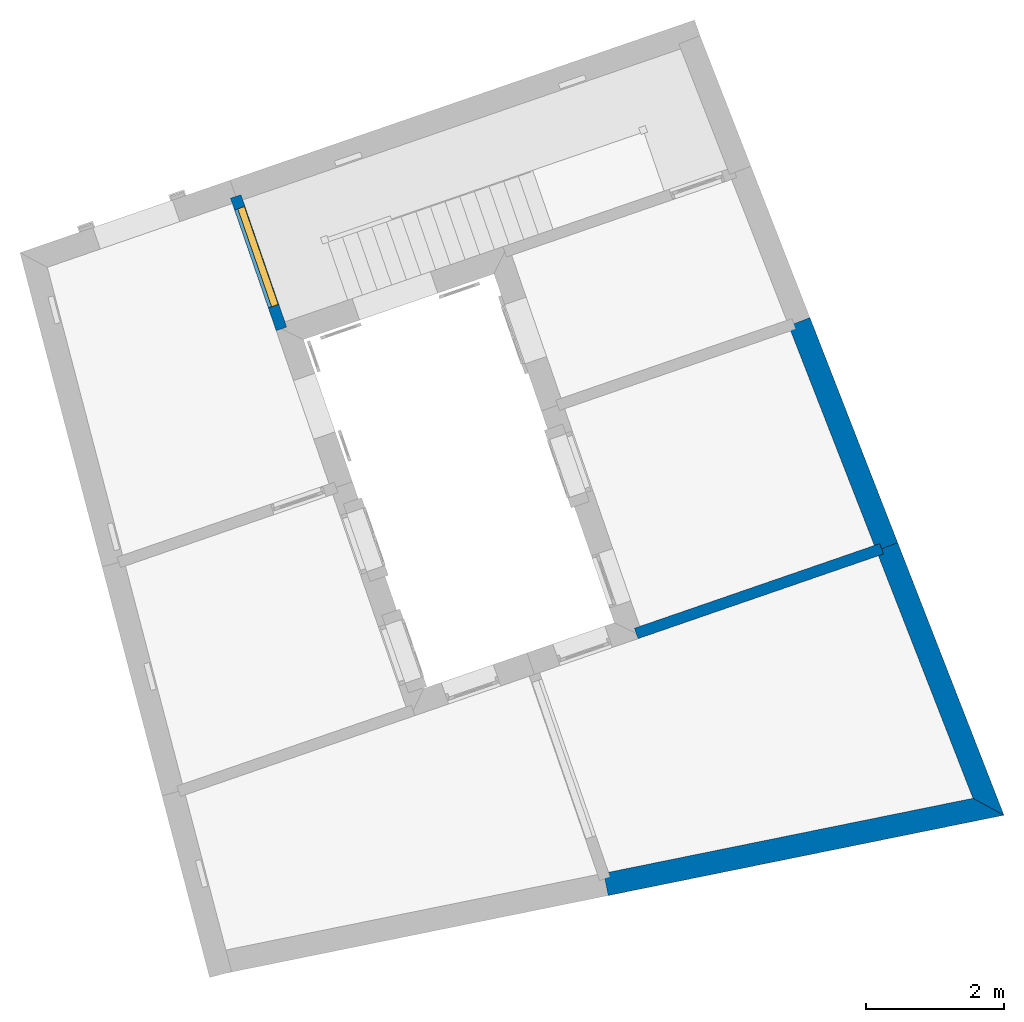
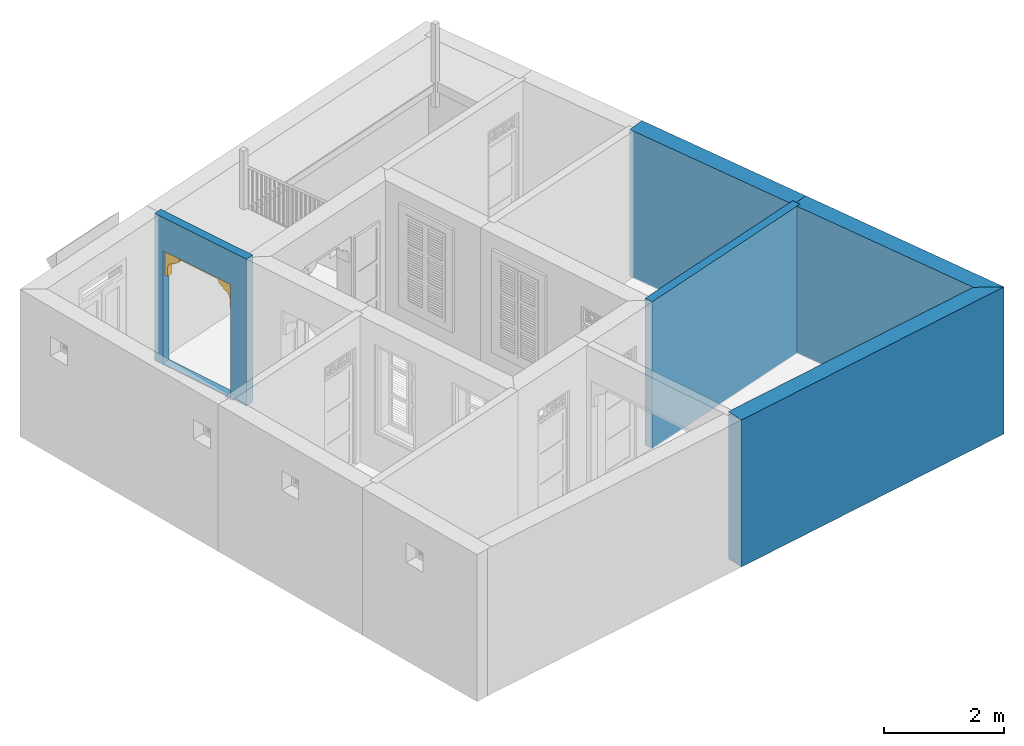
# One storey, part 10 of 16: 5 walls, 1 door, 1 opening.
"""IFC4 building model written with IfcOpenShell, lengths in metres."""

from ifc_helpers import new_model, si_unit, frame, origin, origin_with_axes, place, context, subcontext, project, spatial, polyline, outline, extrude, faceted_brep, source, transform, mapped, material, layer, layer_set, layer_usage, type_object, type_shapes, element, fill, save


model = new_model("IFC4")

# Units and contexts
model_context = context("Model", 3, world=origin_with_axes())
body_context = subcontext(model_context, "Body", "Model", "MODEL_VIEW")
ifc_project = project(units=[si_unit("PLANEANGLEUNIT", "RADIAN"), si_unit("MASSUNIT", "GRAM", prefix="KILO"), si_unit("FORCEUNIT", "NEWTON", prefix="KILO"), si_unit("LENGTHUNIT", "METRE"), si_unit("AREAUNIT", "SQUARE_METRE"), si_unit("VOLUMEUNIT", "CUBIC_METRE")], contexts=[model_context, model_context])

# Site, building, storey
site_placement = place(None, origin_with_axes())
site = spatial("IfcSite", under=ifc_project, at=site_placement, Name="Site plot-8", CompositionType="ELEMENT")
building_placement = place(None, origin_with_axes())
building = spatial("IfcBuilding", under=site, at=building_placement, Name="Building plot-8", CompositionType="ELEMENT")
storey_placement = place(None, origin_with_axes())
storey = spatial("IfcBuildingStorey", under=building, at=storey_placement, Name="plot-8 0", CompositionType="ELEMENT", Elevation=0.0)

# Walls
ifc_material_1 = material(Name="Masonry")
ifc_layer_1 = layer(ifc_material_1, 0.33, ventilated=False)
ifc_layer_set_1 = layer_set([ifc_layer_1], Name="party_0.08_0.25")
ifc_layer_usage_1 = layer_usage(ifc_layer_set_1, "AXIS2", "POSITIVE", -0.25)
wall_type_1 = type_object("IfcWallType", Name="party_0.08_0.25", PredefinedType="SOLIDWALL", material=ifc_layer_set_1)
wall_1_placement = place(storey_placement, frame((-6.90926111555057, 12.5892691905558, 0.0), z_axis=(0.0, 0.0, 1.0), x_axis=(0.979990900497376, 0.199042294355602, 0.0)))
element("IfcWall", 1, at=wall_1_placement, inside=storey, type_object=wall_type_1, material=ifc_layer_usage_1, Name="party", context=body_context, shape_type="SweptSolid", body=[
    extrude(outline(polyline([(-1.78922182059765e-15, 0.0799999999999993), (4.06762212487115e-15, -0.249999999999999), (5.8566875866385, -0.250000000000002), (5.46463031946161, 0.0800000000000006), (-1.78922182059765e-15, 0.0799999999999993)])), origin_with_axes(), (0.0, 0.0, 1.0), 3.0),
])
wall_2_placement = place(storey_placement, frame((-1.46083069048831, 13.6958795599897, 0.0), z_axis=(0.0, 0.0, 1.0), x_axis=(-0.363339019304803, 0.931656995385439, 0.0)))
element("IfcWall", 2, at=wall_2_placement, inside=storey, type_object=wall_type_1, material=ifc_layer_usage_1, Name="party", context=body_context, shape_type="SweptSolid", body=[
    extrude(outline(polyline([(0.0950441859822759, 0.08), (-0.297013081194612, -0.25), (3.94809642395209, -0.25), (3.94809642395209, 0.0799999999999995), (0.0950441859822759, 0.08)])), origin_with_axes(), (0.0, 0.0, 1.0), 3.0),
])
wall_3_placement = place(storey_placement, frame((-2.89532817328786, 17.3741512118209, 0.0), z_axis=(0.0, 0.0, 1.0), x_axis=(-0.363339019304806, 0.931656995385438, 0.0)))
element("IfcWall", 3, at=wall_3_placement, inside=storey, type_object=wall_type_1, material=ifc_layer_usage_1, Name="party", context=body_context, shape_type="SweptSolid", body=[
    extrude(outline(polyline([(1.42598405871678e-15, 0.0799999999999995), (-8.17359183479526e-16, -0.25), (3.50258178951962, -0.25), (3.50258178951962, 0.0799999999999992), (1.42598405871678e-15, 0.0799999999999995)])), origin_with_axes(), (0.0, 0.0, 1.0), 3.0),
])
ifc_material_2 = material(Name="Masonry")
ifc_layer_2 = layer(ifc_material_2, 0.16, ventilated=False)
ifc_layer_set_2 = layer_set([ifc_layer_2], Name="interior_0.08_0.08")
ifc_layer_usage_2 = layer_usage(ifc_layer_set_2, "AXIS2", "POSITIVE", -0.08)
wall_type_2 = type_object("IfcWallType", Name="interior_0.08_0.08", PredefinedType="SOLIDWALL", material=ifc_layer_set_2)
wall_4_placement = place(storey_placement, frame((-2.89532817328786, 17.3741512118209, 0.0), z_axis=(0.0, 0.0, 1.0), x_axis=(-0.945331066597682, -0.326112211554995, 0.0)))
element("IfcWall", 4, at=wall_4_placement, inside=storey, type_object=wall_type_2, material=ifc_layer_usage_2, Name="interior", context=body_context, shape_type="SweptSolid", body=[
    extrude(outline(polyline([(-5.12075676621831e-16, 0.0799999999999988), (5.02278502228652e-16, -0.0799999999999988), (3.7639579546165, -0.0799999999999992), (3.7639579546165, 0.0799999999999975), (-5.12075676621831e-16, 0.0799999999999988)])), origin_with_axes(), (0.0, 0.0, 1.0), 3.0),
])

# Wall, opening, door
wall_5_placement = place(storey_placement, frame((-11.6006556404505, 20.5643458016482, 0.0), z_axis=(0.0, 0.0, 1.0), x_axis=(-0.326112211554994, 0.945331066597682, 0.0)))
wall_5 = element("IfcWall", 5, at=wall_5_placement, inside=storey, type_object=wall_type_2, material=ifc_layer_usage_2, Name="interior", context=body_context, shape_type="SweptSolid", body=[
    extrude(outline(polyline([(8.22022733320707e-16, 0.0800000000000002), (-8.12225558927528e-16, -0.0800000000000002), (2.03106767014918, -0.0800000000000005), (2.03106767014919, 0.0800000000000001), (8.22022733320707e-16, 0.0800000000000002)])), origin_with_axes(), (0.0, 0.0, 1.0), 3.0),
])
opening_placement = place(wall_5_placement, frame((0.351067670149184, 0.0, 0.02)))
opening = element("IfcOpeningElement", 6, at=opening_placement, cuts=wall_5, Name="My Opening", ObjectType="Opening", context=body_context, shape_type="SweptSolid", body=[
    extrude(outline(polyline([(0.0, -0.0999999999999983), (1.5, -0.1), (1.5, 1.1), (2.44249065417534e-15, 1.1), (0.0, -0.0999999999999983)])), origin_with_axes(), (0.0, 0.0, 1.0), 2.3),
])
door_type = type_object("IfcDoorType", Name="arch-1500x2300-thin", OperationType="SINGLE_SWING_LEFT", PredefinedType="NOTDEFINED")
shared_shape = source(origin(), body_context, "Body", "Brep", [
    faceted_brep([(1.5, 0.03, 1.78), (1.5, 0.03, 1.95), (1.44, 0.03, 1.95), (1.44, 0.03, 1.78), (1.44, 0.13, 1.95), (1.44, 0.13, 1.78), (1.5, 0.03, 2.12), (1.429, 0.03, 2.004), (1.5, 0.13, 1.78), (1.5, 0.13, 1.95), (1.429, 0.13, 2.004), (1.399, 0.03, 2.049), (1.5, 0.13, 2.12), (1.399, 0.13, 2.049), (1.354, 0.03, 2.079), (1.5, 0.13, 2.29), (1.5, 0.03, 2.29), (1.354, 0.13, 2.079), (1.3, 0.03, 2.09), (1.3, 0.03, 2.12), (1.254, 0.03, 2.129), (1.18, 0.13, 2.29), (1.18, 0.03, 2.29), (1.3, 0.13, 2.12), (1.254, 0.13, 2.129), (1.3, 0.13, 2.09), (1.215, 0.03, 2.155), (1.189, 0.13, 2.194), (1.18, 0.13, 2.24), (1.18, 0.03, 2.24), (1.189, 0.03, 2.194), (1.215, 0.13, 2.155), (0.06, 0.03, 1.78), (0.06, 0.03, 1.95), (0.0, 0.03, 1.95), (0.0, 0.03, 1.78), (0.06, 0.13, 1.78), (0.06, 0.13, 1.95), (0.071, 0.03, 2.004), (0.0, 0.03, 2.12), (0.0, 0.13, 1.95), (0.0, 0.13, 1.78), (0.071, 0.13, 2.004), (0.101, 0.03, 2.049), (0.0, 0.13, 2.12), (0.101, 0.13, 2.049), (0.146, 0.03, 2.079), (0.0, 0.03, 2.29), (0.0, 0.13, 2.29), (0.146, 0.13, 2.079), (0.2, 0.03, 2.12), (0.2, 0.03, 2.09), (0.246, 0.03, 2.129), (0.32, 0.03, 2.29), (0.32, 0.13, 2.29), (0.246, 0.13, 2.129), (0.2, 0.13, 2.12), (0.2, 0.13, 2.09), (0.285, 0.03, 2.155), (0.32, 0.13, 2.24), (0.311, 0.13, 2.194), (0.311, 0.03, 2.194), (0.32, 0.03, 2.24), (0.285, 0.13, 2.155)], [[[0, 1, 2, 3]], [[4, 5, 3, 2]], [[1, 6, 7, 2]], [[1, 0, 8, 9]], [[5, 8, 0, 3]], [[5, 4, 9, 8]], [[10, 4, 2, 7]], [[6, 11, 7]], [[6, 1, 9, 12]], [[4, 10, 12, 9]], [[13, 10, 7, 11]], [[6, 14, 11]], [[12, 15, 16, 6]], [[12, 10, 13]], [[17, 13, 11, 14]], [[18, 14, 6, 19]], [[6, 16, 20, 19]], [[16, 15, 21, 22]], [[23, 24, 15, 12]], [[12, 13, 17]], [[25, 17, 14, 18]], [[23, 25, 18, 19]], [[24, 23, 19, 20]], [[16, 26, 20]], [[15, 27, 28, 21]], [[16, 22, 29, 30]], [[31, 15, 24]], [[23, 12, 17, 25]], [[31, 24, 20, 26]], [[16, 30, 26]], [[28, 27, 30, 29]], [[27, 15, 31]], [[27, 31, 26, 30]], [[32, 33, 34, 35]], [[33, 32, 36, 37]], [[33, 38, 39, 34]], [[35, 34, 40, 41]], [[32, 35, 41, 36]], [[41, 40, 37, 36]], [[38, 33, 37, 42]], [[38, 43, 39]], [[44, 40, 34, 39]], [[40, 44, 42, 37]], [[43, 38, 42, 45]], [[43, 46, 39]], [[39, 47, 48, 44]], [[45, 42, 44]], [[46, 43, 45, 49]], [[50, 39, 46, 51]], [[50, 52, 47, 39]], [[53, 54, 48, 47]], [[44, 48, 55, 56]], [[49, 45, 44]], [[51, 46, 49, 57]], [[50, 51, 57, 56]], [[52, 50, 56, 55]], [[52, 58, 47]], [[54, 59, 60, 48]], [[61, 62, 53, 47]], [[55, 48, 63]], [[57, 49, 44, 56]], [[58, 52, 55, 63]], [[58, 61, 47]], [[62, 61, 60, 59]], [[63, 48, 60]], [[61, 58, 63, 60]], [[62, 59, 28, 29]], [[59, 54, 21, 28]], [[53, 62, 29, 22]], [[54, 53, 22, 21]]]),
])
type_shapes(door_type, [shared_shape])
door_placement = place(storey_placement, frame((-11.6206099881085, 20.9288321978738, 0.02), z_axis=(0.0, 0.0, 1.0), x_axis=(-0.48916831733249, 1.41799659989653, 0.0)))
door = element("IfcDoor", 7, at=door_placement, inside=storey, type_object=door_type, Name="circulation inside door", OverallHeight=2.3, OverallWidth=1.5, context=body_context, shape_type="MappedRepresentation", body=[
    mapped(shared_shape, transform((0.0, 0.0, 0.0), scale=1.0)),
])
fill(opening, door)

save(model, "model.ifc")
